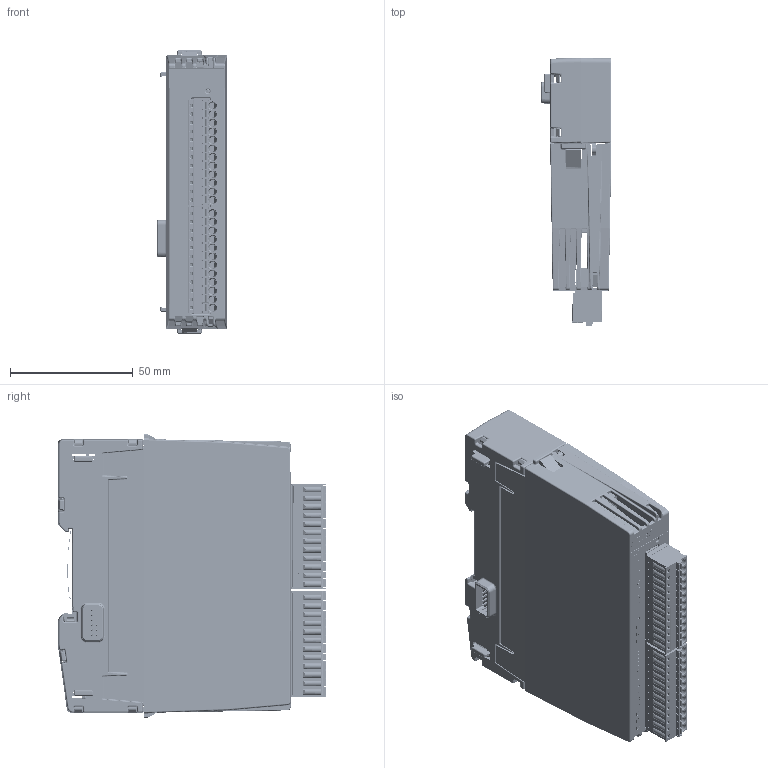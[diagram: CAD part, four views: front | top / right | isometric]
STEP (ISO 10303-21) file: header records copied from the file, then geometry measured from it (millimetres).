
FILE_DESCRIPTION(/* description */ (''),/* implementation_level */ '2;1');
FILE_NAME(/* name */ 'C:\Users\Public\Documents\Autodesk\Inventor 2023\AI08A_Simplified+BackBB21C.stp',/* time_stamp */ '2024-10-15T21:21:24+02:00',/* author */ ('shoma'),/* organization */ (''),/* preprocessor_version */ 'ST-DEVELOPER v19',/* originating_system */ 'Autodesk Inventor 2023',/* authorisation */ '');
FILE_SCHEMA (('AUTOMOTIVE_DESIGN { 1 0 10303 214 3 1 1 }'));
Products named in the file (1): AI08A_Simplified+BackBB21C
Bounding box: 28.9 x 109.39 x 115.5 mm (x, y, z)
Volume: 155201 mm3; surface area: 94769.5 mm2
Topology: 8 solids, 58 shells, 9467 faces, 25085 edges, 15796 vertices
Faces by surface type: plane 5737, cylinder 2404, bspline 890, cone 233, sphere 162, torus 41
Full cylindrical faces by diameter (mm): 0.296 x2, 0.3 x152, 0.457 x2, 0.7 x36, 0.8 x6, 0.85 x24, 0.9 x8, 1.17 x24, 1.2 x24, 1.25 x24, 1.3 x24, 1.4 x4, 1.6 x26, 2.35 x2, 2.5 x1, 3 x1, 3.1 x24, 3.25 x2
Entity records: 327013 total; most frequent: CARTESIAN_POINT 84098, ORIENTED_EDGE 49864, DIRECTION 46158, EDGE_CURVE 24932, LINE 17662, VECTOR 17662, VERTEX_POINT 15796, AXIS2_PLACEMENT_3D 14248
